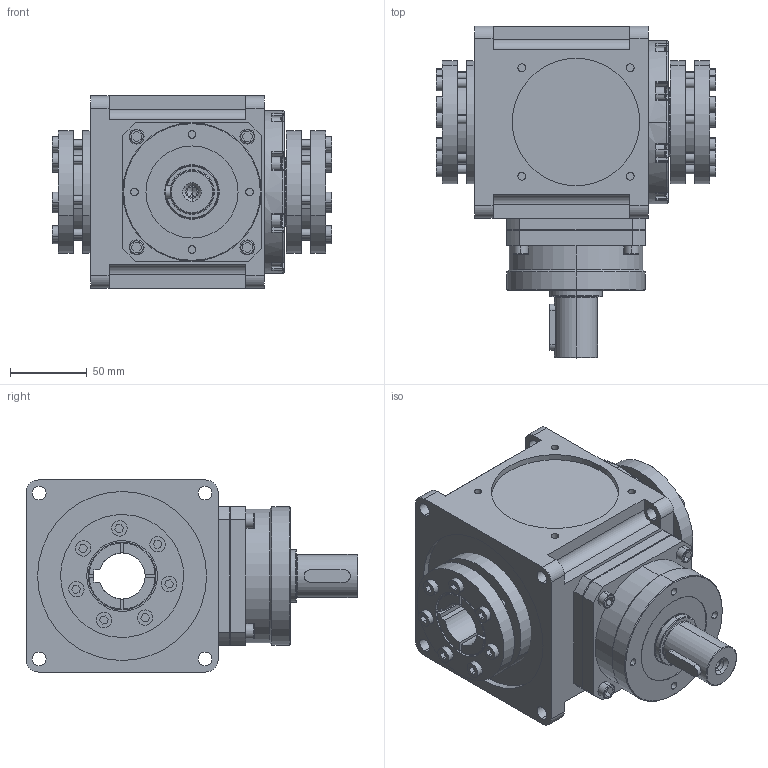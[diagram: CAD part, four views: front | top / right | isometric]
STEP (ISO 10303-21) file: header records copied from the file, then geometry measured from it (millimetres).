
FILE_DESCRIPTION (( 'STEP AP214' ), '1' );
FILE_NAME ('CCT125A-002-2HP-K.STEP', '2025-05-23T05:54:45', ( '微软用户' ), ( '微软中国' ), 'SwSTEP 2.0', 'SolidWorks 2024', '' );
FILE_SCHEMA (( 'AUTOMOTIVE_DESIGN' ));
Length unit declared in the file: millimetre
Products named in the file (4): CCW125A-002-HP-K箱体; 外紧固型胀紧套[44-80]_EDO-44-80; CCW125A输入组件; CCT125A-002-2HP-K
Assembly tree (4 placements, depth 2):
  CCT125A-002-2HP-K
    CCW125A-002-HP-K箱体
    外紧固型胀紧套[44-80]_EDO-44-80  x2
    CCW125A输入组件
Bounding box: 182 x 216 x 125 mm (x, y, z)
Volume: 2128330.2 mm3; surface area: 213654.2 mm2
Topology: 4 solids, 4 shells, 750 faces, 1798 edges, 1144 vertices
Faces by surface type: plane 362, cylinder 293, torus 67, sphere 16, cone 12
Entity records: 18551 total; most frequent: DIRECTION 3368, CARTESIAN_POINT 3316, ORIENTED_EDGE 2984, EDGE_CURVE 1492, AXIS2_PLACEMENT_3D 1276, VERTEX_POINT 952, VECTOR 816, LINE 816
